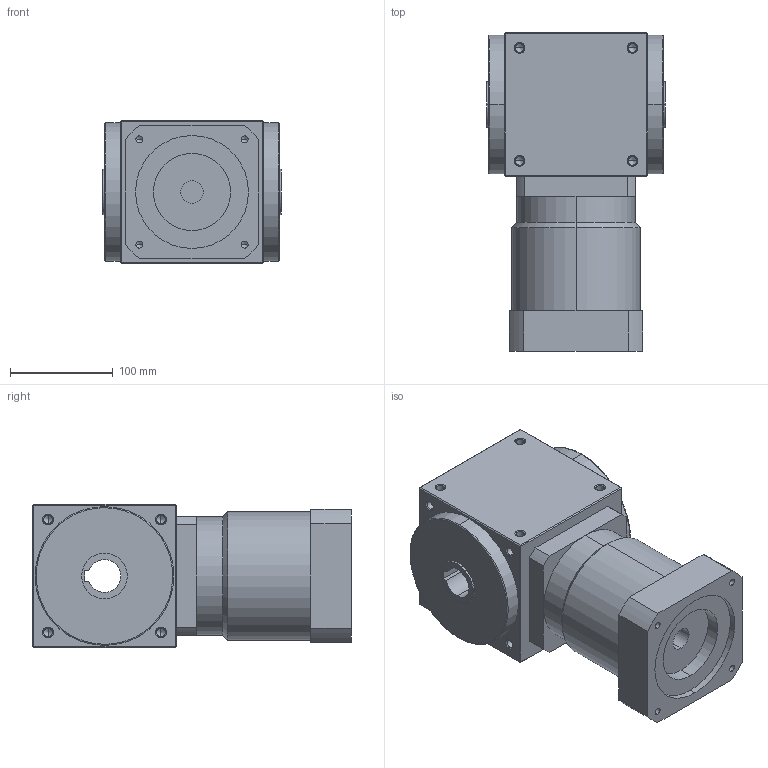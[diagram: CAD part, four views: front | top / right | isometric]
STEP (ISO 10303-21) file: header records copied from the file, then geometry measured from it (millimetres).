
FILE_DESCRIPTION (( 'STEP AP214' ), '1' );
FILE_NAME ('AT140-FH-L2--22-110-145-m8.STEP', '2020-11-19T02:35:44', ( '微软用户' ), ( '微软中国' ), 'SwSTEP 2.0', 'SolidWorks 2014', '' );
FILE_SCHEMA (( 'AUTOMOTIVE_DESIGN' ));
Length unit declared in the file: millimetre
Products named in the file (2): AT140-FH-L2--22-110-145-m8
Bounding box: 174 x 310.5 x 140 mm (x, y, z)
Volume: 5098734.3 mm3; surface area: 247915.6 mm2
Topology: 1 solids, 1 shells, 261 faces, 664 edges, 366 vertices
Faces by surface type: cylinder 117, cone 90, plane 50, bspline 4
Entity records: 10382 total; most frequent: CARTESIAN_POINT 1653, ORIENTED_EDGE 1232, DIRECTION 1226, EDGE_CURVE 616, AXIS2_PLACEMENT_3D 467, VERTEX_POINT 366, EDGE_LOOP 296, LINE 292
